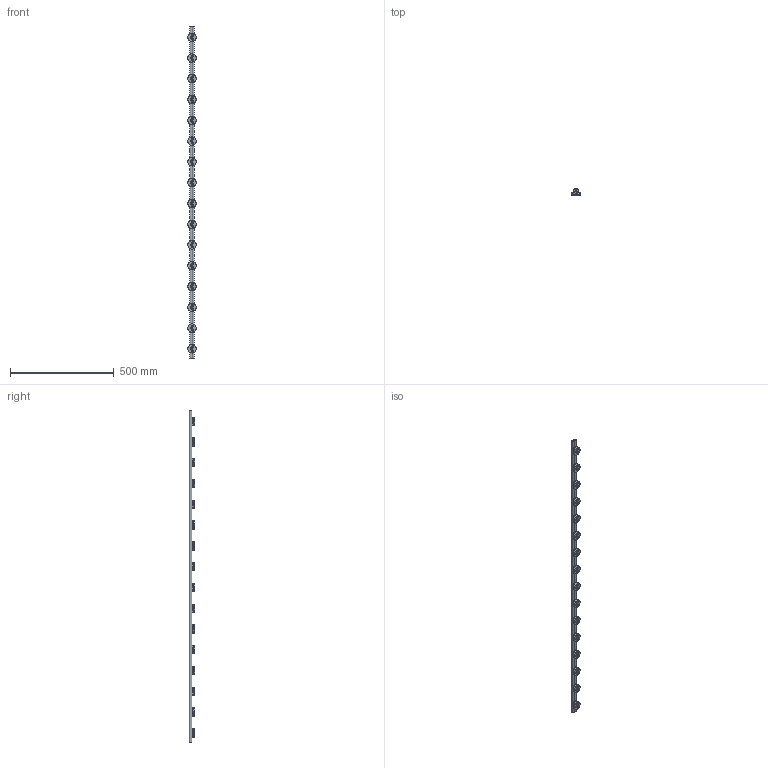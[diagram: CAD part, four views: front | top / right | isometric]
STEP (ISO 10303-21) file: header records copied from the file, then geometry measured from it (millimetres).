
FILE_DESCRIPTION (( 'STEP AP214' ), '1' );
FILE_NAME ('LF 1_-_LF 1 1598 mm lang.step', '2005-06-03T05:55:41', ( ' ' ), ( ' ' ), 'SwSTEP 2.0', 'SolidWorks 2004231', '' );
FILE_SCHEMA (( 'AUTOMOTIVE_DESIGN' ));
Length unit declared in the file: millimetre
Products named in the file (1): LF 1_-_LF 1  1598 mm lang
Bounding box: 40 x 27 x 1598 mm (x, y, z)
Volume: 579982.7 mm3; surface area: 202198.4 mm2
Topology: 1 solids, 1 shells, 1783 faces, 4415 edges, 2666 vertices
Faces by surface type: plane 836, cylinder 691, cone 160, torus 96
Entity records: 54451 total; most frequent: CARTESIAN_POINT 15021, ORIENTED_EDGE 8510, DIRECTION 7653, EDGE_CURVE 4255, AXIS2_PLACEMENT_3D 2718, VERTEX_POINT 2666, VECTOR 2217, LINE 2217
